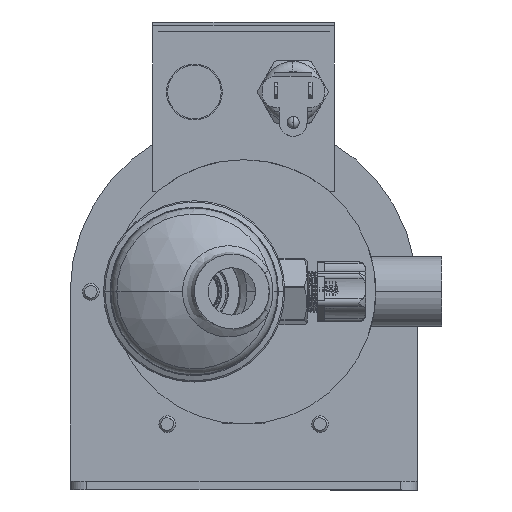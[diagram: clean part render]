
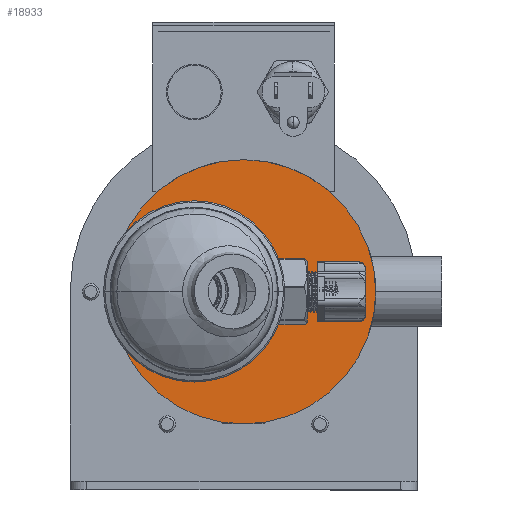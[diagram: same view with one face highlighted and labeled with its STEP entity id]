
A CAD part, front view. The second image highlights one B-rep face of the part: STEP entity #18933.
In plain terms, the highlighted planar face has unit normal (0, -1, 0).
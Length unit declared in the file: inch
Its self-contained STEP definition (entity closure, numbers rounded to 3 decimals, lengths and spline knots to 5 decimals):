
#201 = CIRCLE ( 'NONE', #32541, 0.425 ) ;
#239 = EDGE_LOOP ( 'NONE', ( #11173, #30855 ) ) ;
#2945 = EDGE_CURVE ( 'NONE', #3935, #19177, #13190, .T. ) ;
#3066 = ORIENTED_EDGE ( 'NONE', *, *, #2945, .F. ) ;
#3117 = VERTEX_POINT ( 'NONE', #14991 ) ;
#3935 = VERTEX_POINT ( 'NONE', #12155 ) ;
#4401 = FACE_OUTER_BOUND ( 'NONE', #16974, .T. ) ;
#7383 = DIRECTION ( 'NONE',  ( 0., 1., 0. ) ) ;
#8622 = PLANE ( 'NONE',  #25240 ) ;
#8737 = CIRCLE ( 'NONE', #11143, 0.425 ) ;
#8788 = DIRECTION ( 'NONE',  ( 0., 1., 0. ) ) ;
#10071 = VERTEX_POINT ( 'NONE', #16325 ) ;
#10099 = CARTESIAN_POINT ( 'NONE',  ( 0., -8.305, 0. ) ) ;
#10550 = CIRCLE ( 'NONE', #39260, 2. ) ;
#10884 = AXIS2_PLACEMENT_3D ( 'NONE', #17374, #38639, #20405 ) ;
#11143 = AXIS2_PLACEMENT_3D ( 'NONE', #25588, #7383, #28642 ) ;
#11173 = ORIENTED_EDGE ( 'NONE', *, *, #27054, .T. ) ;
#11813 = DIRECTION ( 'NONE',  ( 0., 1., 0. ) ) ;
#12155 = CARTESIAN_POINT ( 'NONE',  ( 0., -8.305, 2. ) ) ;
#13175 = DIRECTION ( 'NONE',  ( 0., 0., 1. ) ) ;
#13190 = CIRCLE ( 'NONE', #10884, 2. ) ;
#14396 = EDGE_CURVE ( 'NONE', #3117, #10071, #8737, .T. ) ;
#14991 = CARTESIAN_POINT ( 'NONE',  ( -0.75, -8.305, -0.425 ) ) ;
#16325 = CARTESIAN_POINT ( 'NONE',  ( -0.75, -8.305, 0.425 ) ) ;
#16974 = EDGE_LOOP ( 'NONE', ( #31715, #3066 ) ) ;
#17374 = CARTESIAN_POINT ( 'NONE',  ( 0., -8.305, 0. ) ) ;
#18933 = ADVANCED_FACE ( 'NONE', ( #4401, #28650 ), #8622, .F. ) ;
#19177 = VERTEX_POINT ( 'NONE', #37945 ) ;
#20405 = DIRECTION ( 'NONE',  ( 0., 0., 1. ) ) ;
#25240 = AXIS2_PLACEMENT_3D ( 'NONE', #30031, #11813, #33102 ) ;
#25588 = CARTESIAN_POINT ( 'NONE',  ( -0.75, -8.305, 0. ) ) ;
#27027 = CARTESIAN_POINT ( 'NONE',  ( -0.75, -8.305, 0. ) ) ;
#27054 = EDGE_CURVE ( 'NONE', #10071, #3117, #201, .T. ) ;
#28642 = DIRECTION ( 'NONE',  ( 0., 0., 1. ) ) ;
#28650 = FACE_BOUND ( 'NONE', #239, .T. ) ;
#30031 = CARTESIAN_POINT ( 'NONE',  ( 0., -8.305, 0. ) ) ;
#30076 = DIRECTION ( 'NONE',  ( 0., 0., 1. ) ) ;
#30855 = ORIENTED_EDGE ( 'NONE', *, *, #14396, .T. ) ;
#31396 = DIRECTION ( 'NONE',  ( 0., 1., 0. ) ) ;
#31715 = ORIENTED_EDGE ( 'NONE', *, *, #38258, .F. ) ;
#32541 = AXIS2_PLACEMENT_3D ( 'NONE', #27027, #8788, #30076 ) ;
#33102 = DIRECTION ( 'NONE',  ( 0., 0., 1. ) ) ;
#37945 = CARTESIAN_POINT ( 'NONE',  ( 0., -8.305, -2. ) ) ;
#38258 = EDGE_CURVE ( 'NONE', #19177, #3935, #10550, .T. ) ;
#38639 = DIRECTION ( 'NONE',  ( 0., 1., 0. ) ) ;
#39260 = AXIS2_PLACEMENT_3D ( 'NONE', #10099, #31396, #13175 ) ;
